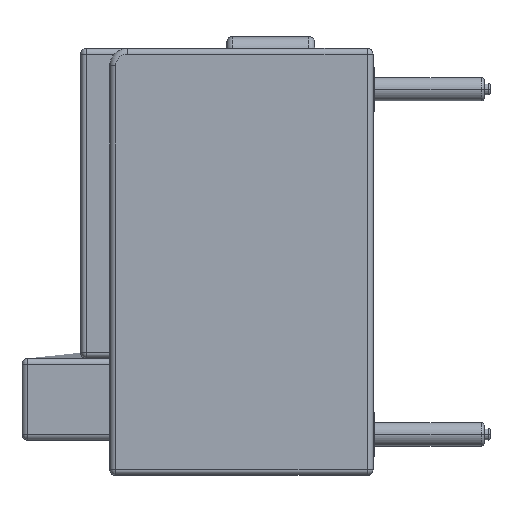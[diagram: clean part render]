
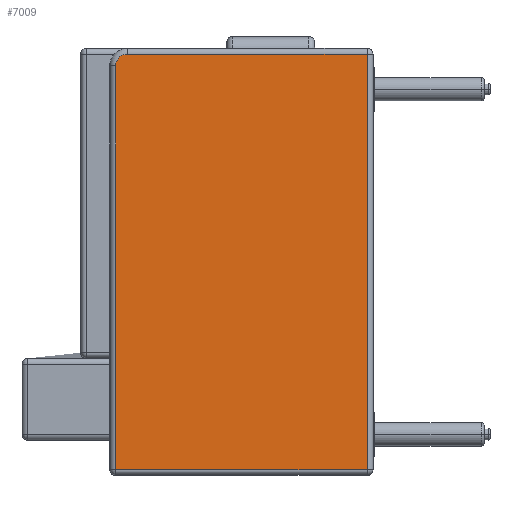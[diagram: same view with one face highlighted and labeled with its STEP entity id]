
A CAD part, left-side view. The second image highlights one B-rep face of the part: STEP entity #7009.
In plain terms, the highlighted planar face has unit normal (-1, 0, 0).
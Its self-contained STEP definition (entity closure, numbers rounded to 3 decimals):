
#433 = DIRECTION ( 'NONE',  ( 0., 0., 1. ) ) ;
#1556 = CARTESIAN_POINT ( 'NONE',  ( -400., 440., -395. ) ) ;
#1782 = PLANE ( 'NONE',  #9616 ) ;
#1797 = ORIENTED_EDGE ( 'NONE', *, *, #9678, .T. ) ;
#1968 = DIRECTION ( 'NONE',  ( 0., 0., 1. ) ) ;
#2110 = LINE ( 'NONE', #7629, #2473 ) ;
#2265 = EDGE_CURVE ( 'NONE', #7216, #6031, #2110, .T. ) ;
#2473 = VECTOR ( 'NONE', #433, 1000. ) ;
#2772 = CARTESIAN_POINT ( 'NONE',  ( -400., 420., 305. ) ) ;
#2831 = VECTOR ( 'NONE', #5561, 1000. ) ;
#2837 = VERTEX_POINT ( 'NONE', #9706 ) ;
#2915 = LINE ( 'NONE', #5682, #2831 ) ;
#2924 = EDGE_CURVE ( 'NONE', #2837, #7216, #9946, .T. ) ;
#2938 = EDGE_CURVE ( 'NONE', #6031, #7277, #2915, .T. ) ;
#3679 = CARTESIAN_POINT ( 'NONE',  ( -400., 10., 325. ) ) ;
#3727 = DIRECTION ( 'NONE',  ( -1., 0., 0. ) ) ;
#3873 = VERTEX_POINT ( 'NONE', #6284 ) ;
#4910 = DIRECTION ( 'NONE',  ( 0., 0., -1. ) ) ;
#5497 = CARTESIAN_POINT ( 'NONE',  ( -400., 0., -385. ) ) ;
#5561 = DIRECTION ( 'NONE',  ( 0., 1., 0. ) ) ;
#5682 = CARTESIAN_POINT ( 'NONE',  ( -400., 450., 325. ) ) ;
#6031 = VERTEX_POINT ( 'NONE', #3679 ) ;
#6174 = CARTESIAN_POINT ( 'NONE',  ( -400., 10., -385. ) ) ;
#6284 = CARTESIAN_POINT ( 'NONE',  ( -400., 440., 305. ) ) ;
#6429 = CARTESIAN_POINT ( 'NONE',  ( -400., 0., 0. ) ) ;
#6487 = ORIENTED_EDGE ( 'NONE', *, *, #2938, .T. ) ;
#6589 = DIRECTION ( 'NONE',  ( 1., 0., 0. ) ) ;
#6853 = EDGE_CURVE ( 'NONE', #3873, #7277, #8975, .T. ) ;
#7009 = ADVANCED_FACE ( 'NONE', ( #9121 ), #1782, .T. ) ;
#7216 = VERTEX_POINT ( 'NONE', #6174 ) ;
#7277 = VERTEX_POINT ( 'NONE', #7936 ) ;
#7306 = DIRECTION ( 'NONE',  ( 0., -1., 0. ) ) ;
#7629 = CARTESIAN_POINT ( 'NONE',  ( -400., 10., 335. ) ) ;
#7936 = CARTESIAN_POINT ( 'NONE',  ( -400., 420., 325. ) ) ;
#7954 = ORIENTED_EDGE ( 'NONE', *, *, #2265, .T. ) ;
#8448 = VECTOR ( 'NONE', #7306, 1000. ) ;
#8659 = LINE ( 'NONE', #1556, #9973 ) ;
#8975 = CIRCLE ( 'NONE', #10636, 20. ) ;
#9092 = ORIENTED_EDGE ( 'NONE', *, *, #2924, .T. ) ;
#9121 = FACE_OUTER_BOUND ( 'NONE', #9859, .T. ) ;
#9616 = AXIS2_PLACEMENT_3D ( 'NONE', #6429, #3727, #1968 ) ;
#9678 = EDGE_CURVE ( 'NONE', #3873, #2837, #8659, .T. ) ;
#9706 = CARTESIAN_POINT ( 'NONE',  ( -400., 440., -385. ) ) ;
#9859 = EDGE_LOOP ( 'NONE', ( #11578, #1797, #9092, #7954, #6487 ) ) ;
#9946 = LINE ( 'NONE', #5497, #8448 ) ;
#9973 = VECTOR ( 'NONE', #4910, 1000. ) ;
#10156 = DIRECTION ( 'NONE',  ( 0., 0., 1. ) ) ;
#10636 = AXIS2_PLACEMENT_3D ( 'NONE', #2772, #6589, #10156 ) ;
#11578 = ORIENTED_EDGE ( 'NONE', *, *, #6853, .F. ) ;
